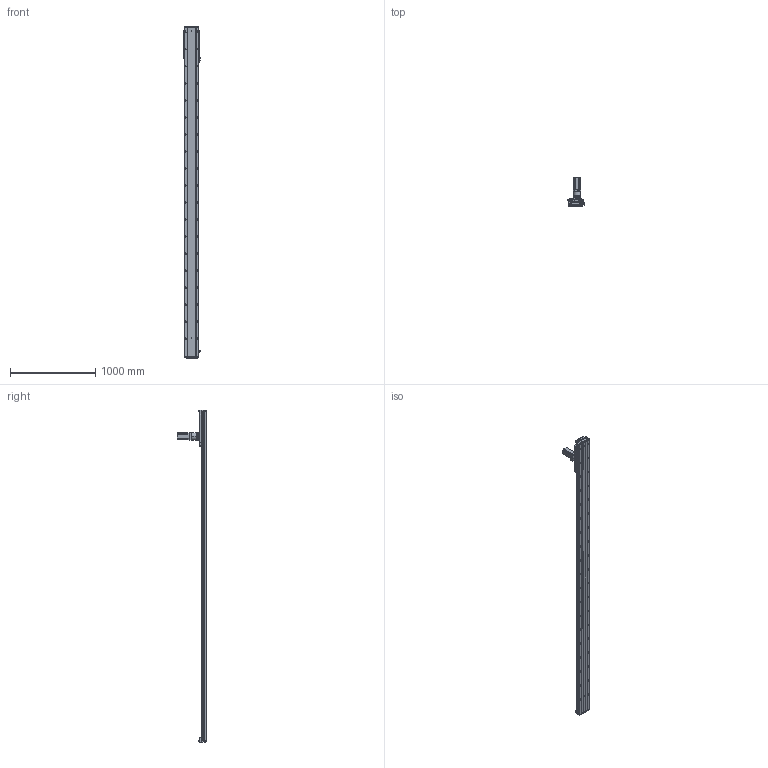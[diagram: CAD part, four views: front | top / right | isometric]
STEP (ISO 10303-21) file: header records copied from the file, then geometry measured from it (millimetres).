
FILE_DESCRIPTION (( 'STEP AP203' ), '1' );
FILE_NAME ('RY170-C-1000-UK.SLDASM_3400.step', '2021-03-03T00:48:50', ( '盈信电脑' ), ( '东莞市道滘镇水果街19号' ), 'SwSTEP 2.0', 'SolidWorks 2012', '' );
FILE_SCHEMA (( 'CONFIG_CONTROL_DESIGN' ));
Length unit declared in the file: millimetre
Products named in the file (13): TF080等撰; RY170-C-1000-UK.SLDASM_3400; RY170-喘沭賑輸; 左旋斜齿齿轮_M2_22齿_内孔20; 怢湛750W萇儂ㄗ80遺ㄘ; RY170-喘謫萇儂覃誹啣; RY170-喘沭滅袉蝶輸; RY170外置感应片(200共用）; 絳寢賑輸EGH20CA; RY170-1000-喘沭耀郪絳寢EGH20CA_3400; RY170綴裔啣ㄗ蜊秶ㄘ; 覜茼ん672; RY170-1000齿条模组型材底座_3400
Assembly tree (22 placements, depth 2):
  RY170-C-1000-UK.SLDASM_3400
    RY170-1000齿条模组型材底座_3400
    絳寢賑輸EGH20CA  x6
    RY170-1000-喘沭耀郪絳寢EGH20CA_3400  x2
    RY170綴裔啣ㄗ蜊秶ㄘ  x2
    覜茼ん672  x3
    RY170外置感应片(200共用）
    RY170-喘謫萇儂覃誹啣
    怢湛750W萇儂ㄗ80遺ㄘ
    RY170-喘沭滅袉蝶輸  x2
    TF080等撰
    左旋斜齿齿轮_M2_22齿_内孔20
    RY170-喘沭賑輸
Bounding box: 188.7 x 343.5 x 3900 mm (x, y, z)
Volume: 19110234.4 mm3; surface area: 4974269.6 mm2
Topology: 24 solids, 24 shells, 5083 faces, 14484 edges, 9213 vertices
Faces by surface type: plane 2341, cylinder 2246, cone 442, bspline 50, torus 4
Entity records: 118968 total; most frequent: CARTESIAN_POINT 29301, ORIENTED_EDGE 18902, DIRECTION 18132, EDGE_CURVE 9451, AXIS2_PLACEMENT_3D 6785, VERTEX_POINT 6141, VECTOR 4562, LINE 4562
